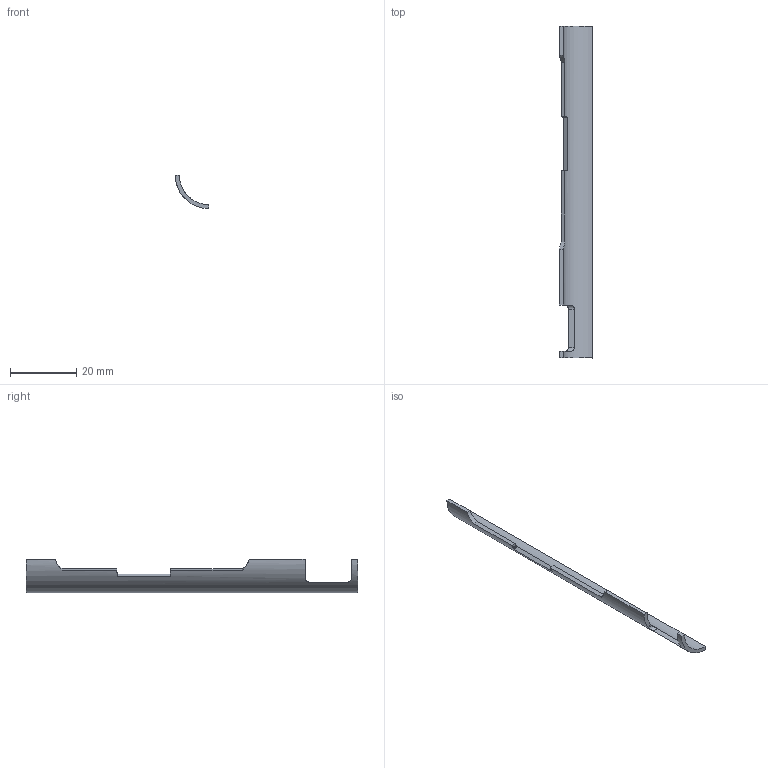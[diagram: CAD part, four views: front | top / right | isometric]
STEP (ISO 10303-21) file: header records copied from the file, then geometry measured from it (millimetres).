
FILE_DESCRIPTION(('Open CASCADE Model'),'2;1');
FILE_NAME('Open CASCADE Shape Model','2026-09-15T13:41:21',('Author'),( 'Open CASCADE'),'Open CASCADE STEP processor 7.7','Open CASCADE 7.7' ,'Unknown');
FILE_SCHEMA(('AUTOMOTIVE_DESIGN { 1 0 10303 214 1 1 1 1 }'));
Length unit declared in the file: millimetre
Products named in the file (1): Open_CASCADE_STEP_translator_7_7_2
Bounding box: 10 x 100 x 10 mm (x, y, z)
Volume: 1395.9 mm3; surface area: 2634.4 mm2
Topology: 1 solids, 1 shells, 32 faces, 88 edges, 58 vertices
Faces by surface type: plane 25, cylinder 4, bspline 3
Entity records: 2853 total; most frequent: CARTESIAN_POINT 1199, DIRECTION 275, ORIENTED_EDGE 176, PCURVE 176, DEFINITIONAL_REPRESENTATION 176, LINE 154, VECTOR 154, EDGE_CURVE 88
